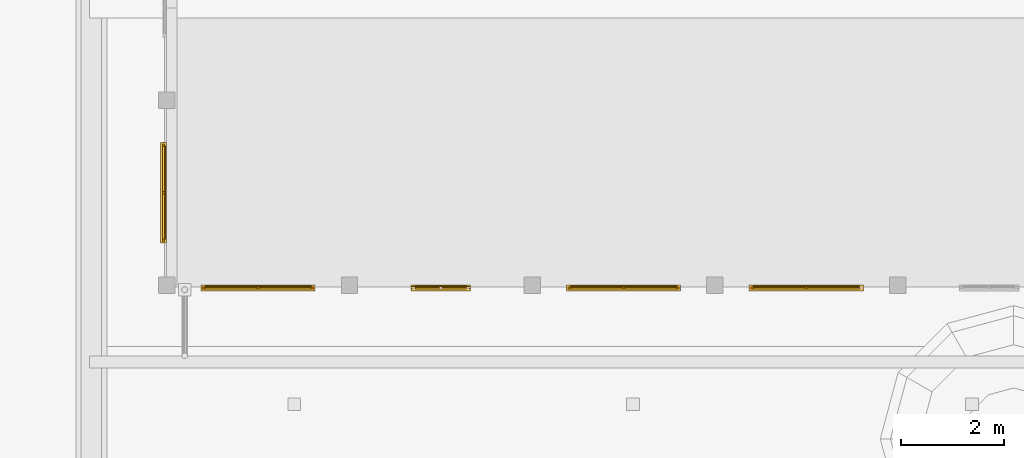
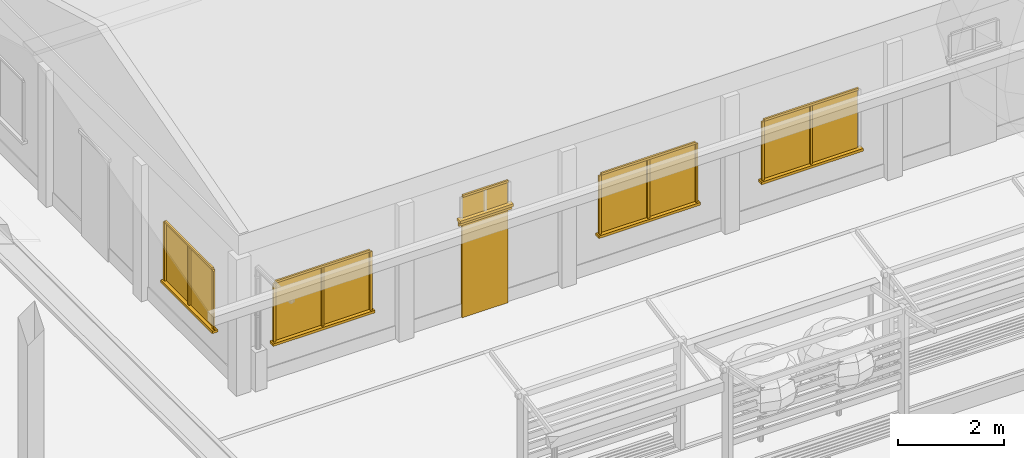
# One storey, part 66 of 177: 26 windows, 2 doors.
"""IFC4 building model written with IfcOpenShell, lengths in metres."""

from ifc_helpers import new_model, si_unit, origin, origin_with_axes, place, context, subcontext, project, spatial, triangles, element, save


model = new_model("IFC4")

# Units and contexts
model_context = context("Model", 3, precision=1e-05, world=origin_with_axes())
body_context = subcontext(model_context, "Body", "Model", "MODEL_VIEW")
ifc_project = project(units=[si_unit("LENGTHUNIT", "METRE"), si_unit("AREAUNIT", "SQUARE_METRE"), si_unit("VOLUMEUNIT", "CUBIC_METRE"), si_unit("PLANEANGLEUNIT", "RADIAN")], contexts=[model_context])

# Site, building, storey
site_placement = place(None, origin_with_axes())
site = spatial("IfcSite", under=ifc_project, at=site_placement, Name="Predio Los Mangos - Morales, San Martín", CompositionType="ELEMENT")
building_placement = place(site_placement, origin())
building = spatial("IfcBuilding", under=site, at=building_placement, Name="Hogar de Refugio Temporal", CompositionType="ELEMENT")
storey_placement = place(building_placement, origin())
storey = spatial("IfcBuildingStorey", under=building, at=storey_placement, Name="NIVEL 1 (NPT +0.00)", CompositionType="ELEMENT", Elevation=0.0)

# Windows
window_1_placement = place(storey_placement, origin())
element("IfcWindow", 1, at=window_1_placement, inside=storey, Name="E-08_v0_vid", ObjectType="Ventana", PredefinedType="WINDOW", context=body_context, shape_type="Tessellation", body=[
    triangles([(32.7476, 116.96, 1.05), (34.8124, 116.96, 1.05), (34.8124, 116.98, 1.05), (32.7476, 116.98, 1.05), (32.7476, 116.96, 2.4), (34.8124, 116.96, 2.4), (34.8124, 116.98, 2.4), (32.7476, 116.98, 2.4)], [[1, 4, 3], [1, 3, 2], [5, 6, 7], [5, 7, 8], [1, 2, 6], [1, 6, 5], [2, 3, 7], [2, 7, 6], [3, 4, 8], [3, 8, 7], [4, 1, 5], [4, 5, 8]]),
])
window_2_placement = place(storey_placement, origin())
element("IfcWindow", 2, at=window_2_placement, inside=storey, Name="E-08_v0_m", ObjectType="Ventana", PredefinedType="WINDOW", context=body_context, shape_type="Tessellation", body=[
    triangles([(32.6976, 116.92, 1.05), (32.7476, 116.92, 1.05), (32.7476, 116.96, 1.05), (32.6976, 116.96, 1.05), (32.6976, 116.92, 2.4), (32.7476, 116.92, 2.4), (32.7476, 116.96, 2.4), (32.6976, 116.96, 2.4)], [[1, 4, 3], [1, 3, 2], [5, 6, 7], [5, 7, 8], [1, 2, 6], [1, 6, 5], [2, 3, 7], [2, 7, 6], [3, 4, 8], [3, 8, 7], [4, 1, 5], [4, 5, 8]]),
])
window_3_placement = place(storey_placement, origin())
element("IfcWindow", 3, at=window_3_placement, inside=storey, Name="E-08_v0_m", ObjectType="Ventana", PredefinedType="WINDOW", context=body_context, shape_type="Tessellation", body=[
    triangles([(34.8124, 116.92, 1.05), (34.8624, 116.92, 1.05), (34.8624, 116.96, 1.05), (34.8124, 116.96, 1.05), (34.8124, 116.92, 2.4), (34.8624, 116.92, 2.4), (34.8624, 116.96, 2.4), (34.8124, 116.96, 2.4)], [[1, 4, 3], [1, 3, 2], [5, 6, 7], [5, 7, 8], [1, 2, 6], [1, 6, 5], [2, 3, 7], [2, 7, 6], [3, 4, 8], [3, 8, 7], [4, 1, 5], [4, 5, 8]]),
])
window_4_placement = place(storey_placement, origin())
element("IfcWindow", 4, at=window_4_placement, inside=storey, Name="E-08_v0_m", ObjectType="Ventana", PredefinedType="WINDOW", context=body_context, shape_type="Tessellation", body=[
    triangles([(32.7476, 116.92, 2.4), (34.8124, 116.92, 2.4), (34.8124, 116.96, 2.4), (32.7476, 116.96, 2.4), (32.7476, 116.92, 2.45), (34.8124, 116.92, 2.45), (34.8124, 116.96, 2.45), (32.7476, 116.96, 2.45)], [[1, 4, 3], [1, 3, 2], [5, 6, 7], [5, 7, 8], [1, 2, 6], [1, 6, 5], [2, 3, 7], [2, 7, 6], [3, 4, 8], [3, 8, 7], [4, 1, 5], [4, 5, 8]]),
])
window_5_placement = place(storey_placement, origin())
element("IfcWindow", 5, at=window_5_placement, inside=storey, Name="E-08_v0_m", ObjectType="Ventana", PredefinedType="WINDOW", context=body_context, shape_type="Tessellation", body=[
    triangles([(33.755, 116.92, 1.05), (33.805, 116.92, 1.05), (33.805, 116.96, 1.05), (33.755, 116.96, 1.05), (33.755, 116.92, 2.4), (33.805, 116.92, 2.4), (33.805, 116.96, 2.4), (33.755, 116.96, 2.4)], [[1, 4, 3], [1, 3, 2], [5, 6, 7], [5, 7, 8], [1, 2, 6], [1, 6, 5], [2, 3, 7], [2, 7, 6], [3, 4, 8], [3, 8, 7], [4, 1, 5], [4, 5, 8]]),
])
window_6_placement = place(storey_placement, origin())
element("IfcWindow", 6, at=window_6_placement, inside=storey, Name="E-08_v0_alf", ObjectType="Ventana", PredefinedType="WINDOW", context=body_context, shape_type="Tessellation", body=[
    triangles([(32.6676, 117.0, 0.99), (34.8924, 117.0, 0.99), (34.8924, 116.88, 0.99), (32.6676, 116.88, 0.99), (32.6676, 117.0, 1.05), (34.8924, 117.0, 1.05), (34.8924, 116.88, 1.05), (32.6676, 116.88, 1.05)], [[1, 4, 3], [1, 3, 2], [5, 6, 7], [5, 7, 8], [1, 2, 6], [1, 6, 5], [2, 3, 7], [2, 7, 6], [3, 4, 8], [3, 8, 7], [4, 1, 5], [4, 5, 8]]),
])

# Doors
door_1_placement = place(storey_placement, origin())
element("IfcDoor", 7, at=door_1_placement, inside=storey, Name="E-08_p1", ObjectType="Puerta", PredefinedType="DOOR", context=body_context, shape_type="Tessellation", body=[
    triangles([(36.84, 116.95, 0.15), (37.84, 116.95, 0.15), (37.84, 116.99, 0.15), (36.84, 116.99, 0.15), (36.84, 116.95, 2.3), (37.84, 116.95, 2.3), (37.84, 116.99, 2.3), (36.84, 116.99, 2.3)], [[1, 4, 3], [1, 3, 2], [5, 6, 7], [5, 7, 8], [1, 2, 6], [1, 6, 5], [2, 3, 7], [2, 7, 6], [3, 4, 8], [3, 8, 7], [4, 1, 5], [4, 5, 8]]),
])
door_2_placement = place(storey_placement, origin())
element("IfcDoor", 8, at=door_2_placement, inside=storey, Name="E-08_p1_marco", ObjectType="Puerta", PredefinedType="DOOR", context=body_context, shape_type="Tessellation", body=[
    triangles([(36.76, 116.93, 2.3), (37.92, 116.93, 2.3), (37.92, 116.97, 2.3), (36.76, 116.97, 2.3), (36.76, 116.93, 2.38), (37.92, 116.93, 2.38), (37.92, 116.97, 2.38), (36.76, 116.97, 2.38)], [[1, 4, 3], [1, 3, 2], [5, 6, 7], [5, 7, 8], [1, 2, 6], [1, 6, 5], [2, 3, 7], [2, 7, 6], [3, 4, 8], [3, 8, 7], [4, 1, 5], [4, 5, 8]]),
])

# Windows
window_7_placement = place(storey_placement, origin())
element("IfcWindow", 9, at=window_7_placement, inside=storey, Name="E-08_vt1_vid", ObjectType="Ventana", PredefinedType="WINDOW", context=body_context, shape_type="Tessellation", body=[
    triangles([(36.84, 116.96, 2.45), (37.84, 116.96, 2.45), (37.84, 116.98, 2.45), (36.84, 116.98, 2.45), (36.84, 116.96, 2.95), (37.84, 116.96, 2.95), (37.84, 116.98, 2.95), (36.84, 116.98, 2.95)], [[1, 4, 3], [1, 3, 2], [5, 6, 7], [5, 7, 8], [1, 2, 6], [1, 6, 5], [2, 3, 7], [2, 7, 6], [3, 4, 8], [3, 8, 7], [4, 1, 5], [4, 5, 8]]),
])
window_8_placement = place(storey_placement, origin())
element("IfcWindow", 10, at=window_8_placement, inside=storey, Name="E-08_vt1_m", ObjectType="Ventana", PredefinedType="WINDOW", context=body_context, shape_type="Tessellation", body=[
    triangles([(36.84, 116.92, 2.95), (37.84, 116.92, 2.95), (37.84, 116.96, 2.95), (36.84, 116.96, 2.95), (36.84, 116.92, 3.0), (37.84, 116.92, 3.0), (37.84, 116.96, 3.0), (36.84, 116.96, 3.0)], [[1, 4, 3], [1, 3, 2], [5, 6, 7], [5, 7, 8], [1, 2, 6], [1, 6, 5], [2, 3, 7], [2, 7, 6], [3, 4, 8], [3, 8, 7], [4, 1, 5], [4, 5, 8]]),
])
window_9_placement = place(storey_placement, origin())
element("IfcWindow", 11, at=window_9_placement, inside=storey, Name="E-08_vt1_alf", ObjectType="Ventana", PredefinedType="WINDOW", context=body_context, shape_type="Tessellation", body=[
    triangles([(36.76, 117.0, 2.39), (37.92, 117.0, 2.39), (37.92, 116.88, 2.39), (36.76, 116.88, 2.39), (36.76, 117.0, 2.45), (37.92, 117.0, 2.45), (37.92, 116.88, 2.45), (36.76, 116.88, 2.45)], [[1, 4, 3], [1, 3, 2], [5, 6, 7], [5, 7, 8], [1, 2, 6], [1, 6, 5], [2, 3, 7], [2, 7, 6], [3, 4, 8], [3, 8, 7], [4, 1, 5], [4, 5, 8]]),
])
window_10_placement = place(storey_placement, origin())
element("IfcWindow", 12, at=window_10_placement, inside=storey, Name="E-08_v2_vid", ObjectType="Ventana", PredefinedType="WINDOW", context=body_context, shape_type="Tessellation", body=[
    triangles([(39.8676, 116.96, 1.05), (41.9324, 116.96, 1.05), (41.9324, 116.98, 1.05), (39.8676, 116.98, 1.05), (39.8676, 116.96, 2.4), (41.9324, 116.96, 2.4), (41.9324, 116.98, 2.4), (39.8676, 116.98, 2.4)], [[1, 4, 3], [1, 3, 2], [5, 6, 7], [5, 7, 8], [1, 2, 6], [1, 6, 5], [2, 3, 7], [2, 7, 6], [3, 4, 8], [3, 8, 7], [4, 1, 5], [4, 5, 8]]),
])
window_11_placement = place(storey_placement, origin())
element("IfcWindow", 13, at=window_11_placement, inside=storey, Name="E-08_v2_m", ObjectType="Ventana", PredefinedType="WINDOW", context=body_context, shape_type="Tessellation", body=[
    triangles([(39.8176, 116.92, 1.05), (39.8676, 116.92, 1.05), (39.8676, 116.96, 1.05), (39.8176, 116.96, 1.05), (39.8176, 116.92, 2.4), (39.8676, 116.92, 2.4), (39.8676, 116.96, 2.4), (39.8176, 116.96, 2.4)], [[1, 4, 3], [1, 3, 2], [5, 6, 7], [5, 7, 8], [1, 2, 6], [1, 6, 5], [2, 3, 7], [2, 7, 6], [3, 4, 8], [3, 8, 7], [4, 1, 5], [4, 5, 8]]),
])
window_12_placement = place(storey_placement, origin())
element("IfcWindow", 14, at=window_12_placement, inside=storey, Name="E-08_v2_m", ObjectType="Ventana", PredefinedType="WINDOW", context=body_context, shape_type="Tessellation", body=[
    triangles([(41.9324, 116.92, 1.05), (41.9824, 116.92, 1.05), (41.9824, 116.96, 1.05), (41.9324, 116.96, 1.05), (41.9324, 116.92, 2.4), (41.9824, 116.92, 2.4), (41.9824, 116.96, 2.4), (41.9324, 116.96, 2.4)], [[1, 4, 3], [1, 3, 2], [5, 6, 7], [5, 7, 8], [1, 2, 6], [1, 6, 5], [2, 3, 7], [2, 7, 6], [3, 4, 8], [3, 8, 7], [4, 1, 5], [4, 5, 8]]),
])
window_13_placement = place(storey_placement, origin())
element("IfcWindow", 15, at=window_13_placement, inside=storey, Name="E-08_v2_m", ObjectType="Ventana", PredefinedType="WINDOW", context=body_context, shape_type="Tessellation", body=[
    triangles([(39.8676, 116.92, 2.4), (41.9324, 116.92, 2.4), (41.9324, 116.96, 2.4), (39.8676, 116.96, 2.4), (39.8676, 116.92, 2.45), (41.9324, 116.92, 2.45), (41.9324, 116.96, 2.45), (39.8676, 116.96, 2.45)], [[1, 4, 3], [1, 3, 2], [5, 6, 7], [5, 7, 8], [1, 2, 6], [1, 6, 5], [2, 3, 7], [2, 7, 6], [3, 4, 8], [3, 8, 7], [4, 1, 5], [4, 5, 8]]),
])
window_14_placement = place(storey_placement, origin())
element("IfcWindow", 16, at=window_14_placement, inside=storey, Name="E-08_v2_m", ObjectType="Ventana", PredefinedType="WINDOW", context=body_context, shape_type="Tessellation", body=[
    triangles([(40.875, 116.92, 1.05), (40.925, 116.92, 1.05), (40.925, 116.96, 1.05), (40.875, 116.96, 1.05), (40.875, 116.92, 2.4), (40.925, 116.92, 2.4), (40.925, 116.96, 2.4), (40.875, 116.96, 2.4)], [[1, 4, 3], [1, 3, 2], [5, 6, 7], [5, 7, 8], [1, 2, 6], [1, 6, 5], [2, 3, 7], [2, 7, 6], [3, 4, 8], [3, 8, 7], [4, 1, 5], [4, 5, 8]]),
])
window_15_placement = place(storey_placement, origin())
element("IfcWindow", 17, at=window_15_placement, inside=storey, Name="E-08_v2_alf", ObjectType="Ventana", PredefinedType="WINDOW", context=body_context, shape_type="Tessellation", body=[
    triangles([(39.7876, 117.0, 0.99), (42.0124, 117.0, 0.99), (42.0124, 116.88, 0.99), (39.7876, 116.88, 0.99), (39.7876, 117.0, 1.05), (42.0124, 117.0, 1.05), (42.0124, 116.88, 1.05), (39.7876, 116.88, 1.05)], [[1, 4, 3], [1, 3, 2], [5, 6, 7], [5, 7, 8], [1, 2, 6], [1, 6, 5], [2, 3, 7], [2, 7, 6], [3, 4, 8], [3, 8, 7], [4, 1, 5], [4, 5, 8]]),
])
window_16_placement = place(storey_placement, origin())
element("IfcWindow", 18, at=window_16_placement, inside=storey, Name="E-08_v3_vid", ObjectType="Ventana", PredefinedType="WINDOW", context=body_context, shape_type="Tessellation", body=[
    triangles([(43.4276, 116.96, 1.05), (45.4924, 116.96, 1.05), (45.4924, 116.98, 1.05), (43.4276, 116.98, 1.05), (43.4276, 116.96, 2.4), (45.4924, 116.96, 2.4), (45.4924, 116.98, 2.4), (43.4276, 116.98, 2.4)], [[1, 4, 3], [1, 3, 2], [5, 6, 7], [5, 7, 8], [1, 2, 6], [1, 6, 5], [2, 3, 7], [2, 7, 6], [3, 4, 8], [3, 8, 7], [4, 1, 5], [4, 5, 8]]),
])
window_17_placement = place(storey_placement, origin())
element("IfcWindow", 19, at=window_17_placement, inside=storey, Name="E-08_v3_m", ObjectType="Ventana", PredefinedType="WINDOW", context=body_context, shape_type="Tessellation", body=[
    triangles([(43.3776, 116.92, 1.05), (43.4276, 116.92, 1.05), (43.4276, 116.96, 1.05), (43.3776, 116.96, 1.05), (43.3776, 116.92, 2.4), (43.4276, 116.92, 2.4), (43.4276, 116.96, 2.4), (43.3776, 116.96, 2.4)], [[1, 4, 3], [1, 3, 2], [5, 6, 7], [5, 7, 8], [1, 2, 6], [1, 6, 5], [2, 3, 7], [2, 7, 6], [3, 4, 8], [3, 8, 7], [4, 1, 5], [4, 5, 8]]),
])
window_18_placement = place(storey_placement, origin())
element("IfcWindow", 20, at=window_18_placement, inside=storey, Name="E-08_v3_m", ObjectType="Ventana", PredefinedType="WINDOW", context=body_context, shape_type="Tessellation", body=[
    triangles([(43.4276, 116.92, 2.4), (45.4924, 116.92, 2.4), (45.4924, 116.96, 2.4), (43.4276, 116.96, 2.4), (43.4276, 116.92, 2.45), (45.4924, 116.92, 2.45), (45.4924, 116.96, 2.45), (43.4276, 116.96, 2.45)], [[1, 4, 3], [1, 3, 2], [5, 6, 7], [5, 7, 8], [1, 2, 6], [1, 6, 5], [2, 3, 7], [2, 7, 6], [3, 4, 8], [3, 8, 7], [4, 1, 5], [4, 5, 8]]),
])
window_19_placement = place(storey_placement, origin())
element("IfcWindow", 21, at=window_19_placement, inside=storey, Name="E-08_v3_m", ObjectType="Ventana", PredefinedType="WINDOW", context=body_context, shape_type="Tessellation", body=[
    triangles([(44.435, 116.92, 1.05), (44.485, 116.92, 1.05), (44.485, 116.96, 1.05), (44.435, 116.96, 1.05), (44.435, 116.92, 2.4), (44.485, 116.92, 2.4), (44.485, 116.96, 2.4), (44.435, 116.96, 2.4)], [[1, 4, 3], [1, 3, 2], [5, 6, 7], [5, 7, 8], [1, 2, 6], [1, 6, 5], [2, 3, 7], [2, 7, 6], [3, 4, 8], [3, 8, 7], [4, 1, 5], [4, 5, 8]]),
])
window_20_placement = place(storey_placement, origin())
element("IfcWindow", 22, at=window_20_placement, inside=storey, Name="E-08_v3_alf", ObjectType="Ventana", PredefinedType="WINDOW", context=body_context, shape_type="Tessellation", body=[
    triangles([(43.3476, 117.0, 0.99), (45.5724, 117.0, 0.99), (45.5724, 116.88, 0.99), (43.3476, 116.88, 0.99), (43.3476, 117.0, 1.05), (45.5724, 117.0, 1.05), (45.5724, 116.88, 1.05), (43.3476, 116.88, 1.05)], [[1, 4, 3], [1, 3, 2], [5, 6, 7], [5, 7, 8], [1, 2, 6], [1, 6, 5], [2, 3, 7], [2, 7, 6], [3, 4, 8], [3, 8, 7], [4, 1, 5], [4, 5, 8]]),
])
window_21_placement = place(storey_placement, origin())
element("IfcWindow", 23, at=window_21_placement, inside=storey, Name="E-08_vg0_vid", ObjectType="Ventana", PredefinedType="WINDOW", context=body_context, shape_type="Tessellation", body=[
    triangles([(31.96, 117.9, 1.05), (31.98, 117.9, 1.05), (31.98, 119.7, 1.05), (31.96, 119.7, 1.05), (31.96, 117.9, 2.4), (31.98, 117.9, 2.4), (31.98, 119.7, 2.4), (31.96, 119.7, 2.4)], [[1, 4, 3], [1, 3, 2], [5, 6, 7], [5, 7, 8], [1, 2, 6], [1, 6, 5], [2, 3, 7], [2, 7, 6], [3, 4, 8], [3, 8, 7], [4, 1, 5], [4, 5, 8]]),
])
window_22_placement = place(storey_placement, origin())
element("IfcWindow", 24, at=window_22_placement, inside=storey, Name="E-08_vg0_m", ObjectType="Ventana", PredefinedType="WINDOW", context=body_context, shape_type="Tessellation", body=[
    triangles([(31.92, 117.85, 1.05), (31.96, 117.85, 1.05), (31.96, 117.9, 1.05), (31.92, 117.9, 1.05), (31.92, 117.85, 2.4), (31.96, 117.85, 2.4), (31.96, 117.9, 2.4), (31.92, 117.9, 2.4)], [[1, 4, 3], [1, 3, 2], [5, 6, 7], [5, 7, 8], [1, 2, 6], [1, 6, 5], [2, 3, 7], [2, 7, 6], [3, 4, 8], [3, 8, 7], [4, 1, 5], [4, 5, 8]]),
])
window_23_placement = place(storey_placement, origin())
element("IfcWindow", 25, at=window_23_placement, inside=storey, Name="E-08_vg0_m", ObjectType="Ventana", PredefinedType="WINDOW", context=body_context, shape_type="Tessellation", body=[
    triangles([(31.92, 119.7, 1.05), (31.96, 119.7, 1.05), (31.96, 119.75, 1.05), (31.92, 119.75, 1.05), (31.92, 119.7, 2.4), (31.96, 119.7, 2.4), (31.96, 119.75, 2.4), (31.92, 119.75, 2.4)], [[1, 4, 3], [1, 3, 2], [5, 6, 7], [5, 7, 8], [1, 2, 6], [1, 6, 5], [2, 3, 7], [2, 7, 6], [3, 4, 8], [3, 8, 7], [4, 1, 5], [4, 5, 8]]),
])
window_24_placement = place(storey_placement, origin())
element("IfcWindow", 26, at=window_24_placement, inside=storey, Name="E-08_vg0_m", ObjectType="Ventana", PredefinedType="WINDOW", context=body_context, shape_type="Tessellation", body=[
    triangles([(31.92, 117.9, 2.4), (31.96, 117.9, 2.4), (31.96, 119.7, 2.4), (31.92, 119.7, 2.4), (31.92, 117.9, 2.45), (31.96, 117.9, 2.45), (31.96, 119.7, 2.45), (31.92, 119.7, 2.45)], [[1, 4, 3], [1, 3, 2], [5, 6, 7], [5, 7, 8], [1, 2, 6], [1, 6, 5], [2, 3, 7], [2, 7, 6], [3, 4, 8], [3, 8, 7], [4, 1, 5], [4, 5, 8]]),
])
window_25_placement = place(storey_placement, origin())
element("IfcWindow", 27, at=window_25_placement, inside=storey, Name="E-08_vg0_m", ObjectType="Ventana", PredefinedType="WINDOW", context=body_context, shape_type="Tessellation", body=[
    triangles([(31.92, 118.775, 1.05), (31.96, 118.775, 1.05), (31.96, 118.825, 1.05), (31.92, 118.825, 1.05), (31.92, 118.775, 2.4), (31.96, 118.775, 2.4), (31.96, 118.825, 2.4), (31.92, 118.825, 2.4)], [[1, 4, 3], [1, 3, 2], [5, 6, 7], [5, 7, 8], [1, 2, 6], [1, 6, 5], [2, 3, 7], [2, 7, 6], [3, 4, 8], [3, 8, 7], [4, 1, 5], [4, 5, 8]]),
])
window_26_placement = place(storey_placement, origin())
element("IfcWindow", 28, at=window_26_placement, inside=storey, Name="E-08_vg0_alf", ObjectType="Ventana", PredefinedType="WINDOW", context=body_context, shape_type="Tessellation", body=[
    triangles([(32.0, 117.82, 0.99), (31.88, 117.82, 0.99), (31.88, 119.78, 0.99), (32.0, 119.78, 0.99), (32.0, 117.82, 1.05), (31.88, 117.82, 1.05), (31.88, 119.78, 1.05), (32.0, 119.78, 1.05)], [[1, 4, 3], [1, 3, 2], [5, 6, 7], [5, 7, 8], [1, 2, 6], [1, 6, 5], [2, 3, 7], [2, 7, 6], [3, 4, 8], [3, 8, 7], [4, 1, 5], [4, 5, 8]]),
])

save(model, "model.ifc")
